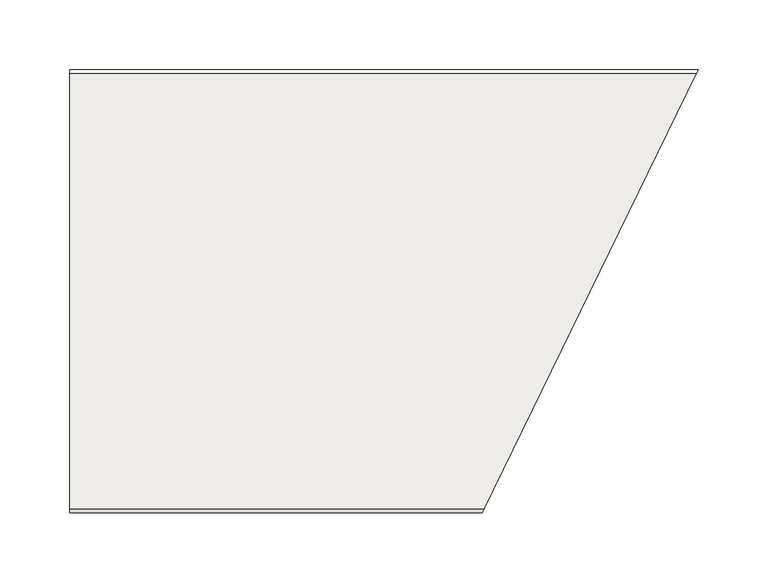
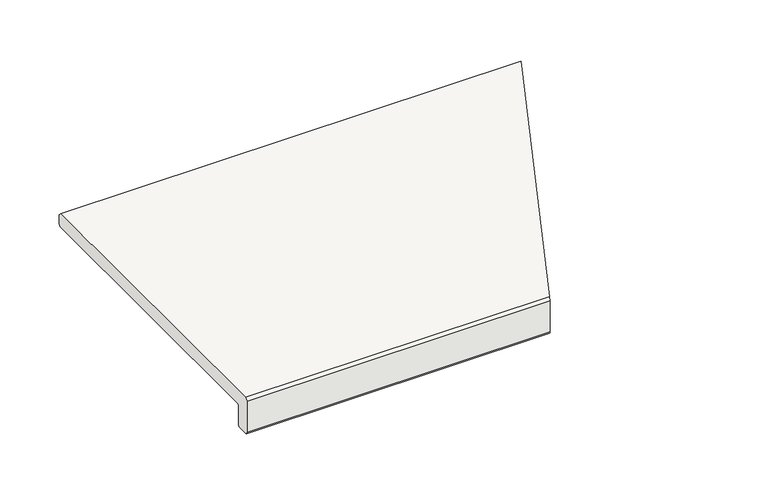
"""IFC4 building model written with IfcOpenShell, lengths in millimetres: slab geometry, ROSA GRES_L62 (corte) : Pieza L62_Serena_Ocra_Anti-Slip."""

from ifc_helpers import new_model, si_unit, frame, origin, place, context, project, spatial, polyline, circle_curve, ellipse_curve, source, transform, mapped, element, save
from ifc_brep_helpers import plane_surface, cylinder_surface, revolved_surface, advanced_brep


def slab_20f1a7c6(model_context):
    return source(origin(), model_context, "Body", "AdvancedBrep", [
        advanced_brep(
        [(0.0, 0.0, -20.5), (0.0, 0.0, 11.5), (0.0, 2.5, 14.0), (0.0, 314.5, 14.0), (0.0, 317.0, 11.5), (0.0, 317.0, 2.5), (0.0, 314.5, 0.0), (0.0, 16.5, 0.0), (0.0, 14.0, -2.5), (0.0, 14.0, -20.5), (0.0, 11.5, -23.0), (0.0, 2.5, -23.0), (295.1449031, 0.0, 11.5), (296.3642346, 2.5, 14.0), (448.5368022, 314.5, 14.0), (449.7561337, 317.0, 11.5), (300.7538279, 11.5, -23.0), (296.3642346, 2.5, -23.0), (449.7561337, 317.0, 2.5), (448.5368022, 314.5, 0.0), (295.1449031, 0.0, -20.5), (301.9731594, 14.0, -20.5), (303.1924908, 16.5, 0.0), (301.9731594, 14.0, -2.5)],
        [
            (0, 1),
            (1, 2),
            (2, 3),
            (3, 4),
            (4, 5),
            (5, 6, circle_curve(frame((0.0, 314.5, 2.5), z_axis=(-1.0, 0.0, 0.0), x_axis=(0.0, 0.0, -1.0)), 2.5)),
            (6, 7),
            (7, 8, circle_curve(frame((0.0, 16.5, -2.5), z_axis=(1.0, 0.0, 0.0), x_axis=(0.0, 0.0, -1.0)), 2.5)),
            (8, 9),
            (9, 10, circle_curve(frame((0.0, 11.5, -20.5), z_axis=(-1.0, 0.0, 0.0), x_axis=(0.0, 0.0, -1.0)), 2.5)),
            (10, 11),
            (11, 0, circle_curve(frame((0.0, 2.5, -20.5), z_axis=(-1.0, 0.0, 0.0), x_axis=(0.0, 0.0, -1.0)), 2.5)),
            (1, 12),
            (12, 13),
            (13, 2),
            (3, 14),
            (14, 15),
            (15, 4),
            (10, 16),
            (16, 17),
            (17, 11),
            (5, 18),
            (18, 19, ellipse_curve(frame((448.5368022, 314.5, 2.5), z_axis=(-0.8987940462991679, 0.43837114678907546, 0.0), x_axis=(-0.43837114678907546, -0.8987940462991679, 0.0)), 2.7815049, 2.5)),
            (19, 6),
            (15, 18),
            (0, 20),
            (20, 12),
            (17, 20, ellipse_curve(frame((296.3642346, 2.5, -20.5), z_axis=(-0.8987940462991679, 0.43837114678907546, 0.0), x_axis=(-0.43837114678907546, -0.8987940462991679, 0.0)), 2.7815049, 2.5)),
            (9, 21),
            (21, 16, ellipse_curve(frame((300.7538279, 11.5, -20.5), z_axis=(-0.8987940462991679, 0.43837114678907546, 0.0), x_axis=(-0.43837114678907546, -0.8987940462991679, 0.0)), 2.7815049, 2.5)),
            (13, 14),
            (19, 22),
            (22, 7),
            (22, 23, ellipse_curve(frame((303.1924908, 16.5, -2.5), z_axis=(0.8987940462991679, -0.43837114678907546, 0.0), x_axis=(0.43837114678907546, 0.8987940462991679, 0.0)), 2.7815049, 2.5)),
            (23, 8),
            (23, 21),
        ],
        [
            plane_surface(frame((0.0, 0.0, 0.0), z_axis=(-1.0, 0.0, 0.0), x_axis=(0.0, 0.0, 1.0))),
            plane_surface(frame((0.0, 0.0, 11.5), z_axis=(0.0, -0.707106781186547, 0.7071067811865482), x_axis=(1.0, 0.0, 0.0))),
            plane_surface(frame((0.0, 314.5, 14.0), z_axis=(0.0, 0.707106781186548, 0.707106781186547), x_axis=(1.0, 0.0, 0.0))),
            plane_surface(frame((0.0, 11.5, -23.0), z_axis=(0.0, 0.0, -1.0), x_axis=(1.0, 0.0, 0.0))),
            cylinder_surface(frame((0.0, 314.5, 2.5), z_axis=(-1.0, 0.0, 0.0), x_axis=(0.0, 0.0, -1.0)), 2.5),
            plane_surface(frame((0.0, 317.0, 11.5), z_axis=(0.0, 1.0, 0.0), x_axis=(1.0, 0.0, 0.0))),
            plane_surface(frame((0.0, 0.0, -20.5), z_axis=(0.0, -1.0, 0.0), x_axis=(1.0, 0.0, 0.0))),
            cylinder_surface(frame((0.0, 2.5, -20.5), z_axis=(-1.0, 0.0, 0.0), x_axis=(0.0, 0.0, -1.0)), 2.5),
            cylinder_surface(frame((0.0, 11.5, -20.5), z_axis=(-1.0, 0.0, 0.0), x_axis=(0.0, 0.0, -1.0)), 2.5),
            plane_surface(frame((0.0, 2.5, 14.0), z_axis=(0.0, 0.0, 1.0), x_axis=(1.0, 0.0, 0.0))),
            plane_surface(frame((0.0, 314.5, 0.0), z_axis=(0.0, 0.0, -1.0), x_axis=(1.0, 0.0, 0.0))),
            revolved_surface(polyline([(304.4118222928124, 16.5, -5.0), (0.0, 16.5, -5.0)]), (0.0, 16.5, -2.5), (1.0, 0.0, 0.0)),
            plane_surface(frame((0.0, 14.0, -2.5), z_axis=(0.0, 1.0, 0.0), x_axis=(1.0, 0.0, 0.0))),
            plane_surface(frame((450.0, 317.5, 86.9871832), z_axis=(0.8987940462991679, -0.43837114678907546, 0.0), x_axis=(0.0, 0.0, -1.0))),
        ],
        [
            (0, [[1, 2, 3, 4, 5, 6, 7, 8, 9, 10, 11, 12]]),
            (1, [[-2, 13, 14, 15]]),
            (2, [[-4, 16, 17, 18]]),
            (3, [[-11, 19, 20, 21]]),
            (4, [[-6, 22, 23, 24]]),
            (5, [[-5, -18, 25, -22]]),
            (6, [[-1, 26, 27, -13]]),
            (7, [[-12, -21, 28, -26]]),
            (8, [[-10, 29, 30, -19]]),
            (9, [[-3, -15, 31, -16]]),
            (10, [[-7, -24, 32, 33]]),
            (11, [[-8, -33, 34, 35]]),
            (12, [[-9, -35, 36, -29]]),
            (13, [[-27, -28, -20, -30, -36, -34, -32, -23, -25, -17, -31, -14]]),
        ],
    ),
    ])


if __name__ == "__main__":
    model = new_model("IFC4")
    model_context = context("Model", 3, world=origin())
    ifc_project = project(units=[si_unit("LENGTHUNIT", "METRE", prefix="MILLI")], contexts=[model_context])
    site = spatial("IfcSite", under=ifc_project)
    building = spatial("IfcBuilding", under=site)
    placement = place(None, origin())
    slab_shape = slab_20f1a7c6(model_context)
    element("IfcSlab", 1, ObjectType="ROSA GRES_L62 (corte) : Pieza L62_Serena_Ocra_Anti-Slip", at=placement, inside=building, context=model_context, shape_type="MappedRepresentation", body=[
        mapped(slab_shape, transform((0.0, 0.0, 0.0), x_axis=(1.0, 0.0, 0.0), y_axis=(0.0, 1.0, 0.0), z_axis=(0.0, 0.0, 1.0))),
    ])
    save(model, "model.ifc")
